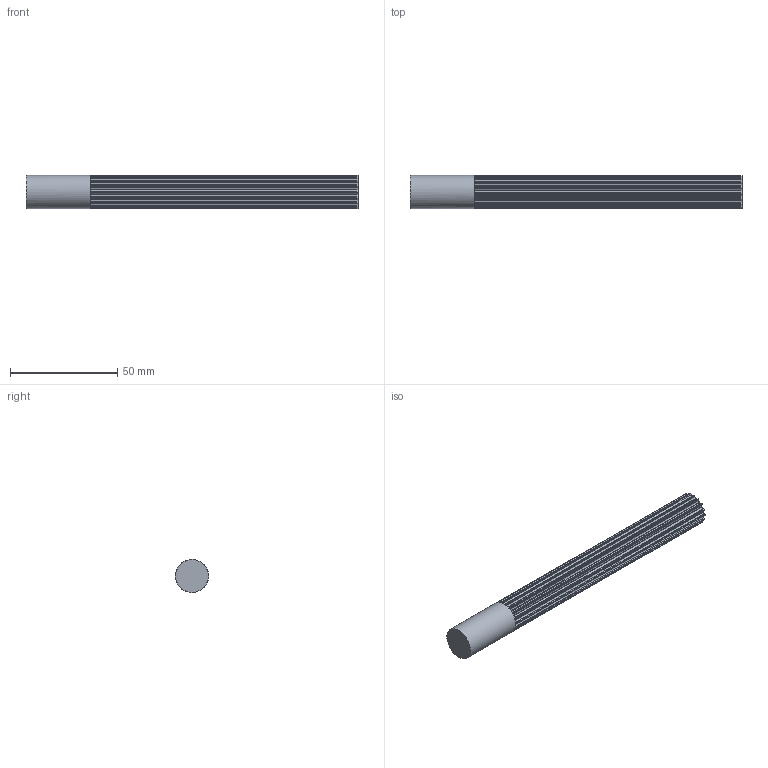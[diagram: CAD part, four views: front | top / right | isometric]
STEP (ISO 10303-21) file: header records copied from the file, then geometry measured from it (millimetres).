
FILE_DESCRIPTION( ( 'STEP AP214' ), '1' );
FILE_NAME( 'C:/Users/StangenbergN/Desktop/Steps Zahnriemenräder/K166_HTD-Zahnwellen/17091700.stp', '2019-06-06T09:33:38', ( '' ), ( '' ), ' ', 'PARTsolutions', ' ' );
FILE_SCHEMA( ( 'AUTOMOTIVE_DESIGN { 1 0 10303 214 1 1 1 1 }' ) );
Length unit declared in the file: millimetre
Products named in the file (1): _17091700
Bounding box: 155 x 15.47 x 15.47 mm (x, y, z)
Volume: 24716.5 mm3; surface area: 10068.6 mm2
Topology: 1 solids, 1 shells, 139 faces, 411 edges, 274 vertices
Faces by surface type: plane 70, cylinder 69
Full cylindrical faces by diameter (mm): 15.47 x1
Entity records: 5830 total; most frequent: DIRECTION 860, CARTESIAN_POINT 822, ORIENTED_EDGE 818, EDGE_CURVE 409, AXIS2_PLACEMENT_3D 311, VERTEX_POINT 273, LINE 238, VECTOR 238
